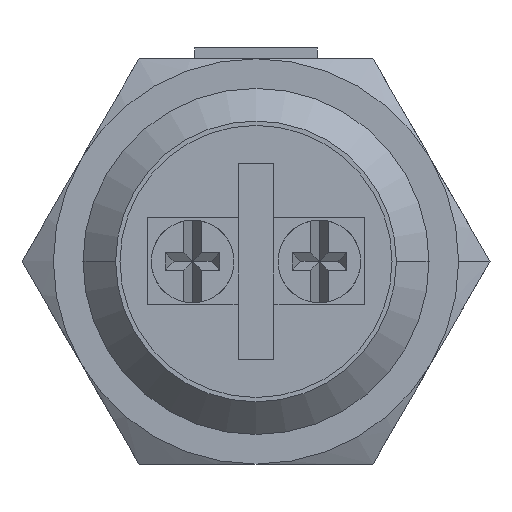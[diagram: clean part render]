
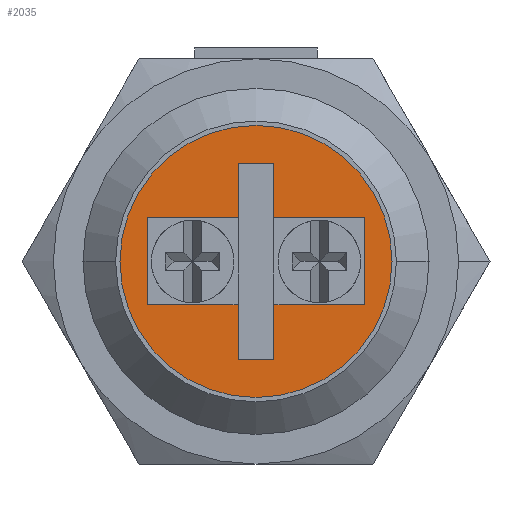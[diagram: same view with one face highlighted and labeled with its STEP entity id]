
A CAD part, front view. The second image highlights one B-rep face of the part: STEP entity #2035.
In plain terms, the highlighted planar face has unit normal (0, -1, 0).
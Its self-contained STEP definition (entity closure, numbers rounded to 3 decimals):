
#145 = CARTESIAN_POINT ( 'NONE',  ( 0.825, 0., -4.5 ) ) ;
#146 = CARTESIAN_POINT ( 'NONE',  ( -0.825, 0., -4.5 ) ) ;
#167 = CARTESIAN_POINT ( 'NONE',  ( 0.825, 0., 2. ) ) ;
#180 = CARTESIAN_POINT ( 'NONE',  ( -6.25, 0., 0. ) ) ;
#188 = CARTESIAN_POINT ( 'NONE',  ( 6.25, 0., 0. ) ) ;
#201 = CARTESIAN_POINT ( 'NONE',  ( -5., 0., -2. ) ) ;
#202 = CARTESIAN_POINT ( 'NONE',  ( -5., 0., 2. ) ) ;
#203 = CARTESIAN_POINT ( 'NONE',  ( -0.825, 0., 2. ) ) ;
#204 = CARTESIAN_POINT ( 'NONE',  ( -0.825, 0., -2. ) ) ;
#227 = CARTESIAN_POINT ( 'NONE',  ( 5., 0., -2. ) ) ;
#229 = CARTESIAN_POINT ( 'NONE',  ( 0.825, 0., 4.5 ) ) ;
#240 = CARTESIAN_POINT ( 'NONE',  ( 5., 0., 2. ) ) ;
#241 = CARTESIAN_POINT ( 'NONE',  ( -0.825, 0., 4.5 ) ) ;
#245 = CARTESIAN_POINT ( 'NONE',  ( 0.825, 0., -2. ) ) ;
#409 = CARTESIAN_POINT ( 'NONE',  ( 0., 0., 0. ) ) ;
#410 = DIRECTION ( 'NONE',  ( 0., 1., 0. ) ) ;
#411 = DIRECTION ( 'NONE',  ( -1., 0., 0. ) ) ;
#467 = LINE ( 'NONE', #468, #4491 ) ;
#468 = CARTESIAN_POINT ( 'NONE',  ( 5., 0., -2. ) ) ;
#469 = DIRECTION ( 'NONE',  ( 0., 0., 1. ) ) ;
#473 = LINE ( 'NONE', #474, #4490 ) ;
#474 = CARTESIAN_POINT ( 'NONE',  ( -0.825, 0., -4.5 ) ) ;
#475 = DIRECTION ( 'NONE',  ( 0., 0., -1. ) ) ;
#609 = LINE ( 'NONE', #610, #4444 ) ;
#610 = CARTESIAN_POINT ( 'NONE',  ( -5., 0., 2. ) ) ;
#611 = DIRECTION ( 'NONE',  ( -1., 0., 0. ) ) ;
#627 = LINE ( 'NONE', #628, #4435 ) ;
#628 = CARTESIAN_POINT ( 'NONE',  ( -5., 0., -2. ) ) ;
#629 = DIRECTION ( 'NONE',  ( 1., 0., 0. ) ) ;
#656 = CARTESIAN_POINT ( 'NONE',  ( 0., 0., 0. ) ) ;
#657 = LINE ( 'NONE', #658, #4420 ) ;
#658 = CARTESIAN_POINT ( 'NONE',  ( -0.825, 0., -4.5 ) ) ;
#659 = DIRECTION ( 'NONE',  ( 1., 0., 0. ) ) ;
#660 = LINE ( 'NONE', #661, #4417 ) ;
#661 = CARTESIAN_POINT ( 'NONE',  ( 0.825, 0., -4.5 ) ) ;
#662 = DIRECTION ( 'NONE',  ( 0., 0., 1. ) ) ;
#666 = DIRECTION ( 'NONE',  ( 0., 1., 0. ) ) ;
#667 = DIRECTION ( 'NONE',  ( -1., 0., 0. ) ) ;
#693 = LINE ( 'NONE', #694, #4398 ) ;
#694 = CARTESIAN_POINT ( 'NONE',  ( 0.825, 0., -4.5 ) ) ;
#695 = DIRECTION ( 'NONE',  ( 0., 0., 1. ) ) ;
#699 = LINE ( 'NONE', #700, #4394 ) ;
#700 = CARTESIAN_POINT ( 'NONE',  ( -0.825, 0., 4.5 ) ) ;
#701 = DIRECTION ( 'NONE',  ( -1., 0., 0. ) ) ;
#702 = LINE ( 'NONE', #703, #4392 ) ;
#703 = CARTESIAN_POINT ( 'NONE',  ( -0.825, 0., -4.5 ) ) ;
#704 = DIRECTION ( 'NONE',  ( 0., 0., -1. ) ) ;
#705 = LINE ( 'NONE', #706, #4391 ) ;
#706 = CARTESIAN_POINT ( 'NONE',  ( -5., 0., 2. ) ) ;
#707 = DIRECTION ( 'NONE',  ( -1., 0., 0. ) ) ;
#708 = LINE ( 'NONE', #709, #4389 ) ;
#709 = CARTESIAN_POINT ( 'NONE',  ( -5., 0., -2. ) ) ;
#710 = DIRECTION ( 'NONE',  ( 1., 0., 0. ) ) ;
#711 = LINE ( 'NONE', #712, #4386 ) ;
#712 = CARTESIAN_POINT ( 'NONE',  ( -5., 0., -2. ) ) ;
#713 = DIRECTION ( 'NONE',  ( 0., 0., -1. ) ) ;
#1630 = CIRCLE ( 'NONE', #4416, 6.25 ) ;
#1663 = CIRCLE ( 'NONE', #4525, 6.25 ) ;
#2035 = ADVANCED_FACE ( 'NONE', ( #4636, #4632 ), #4073, .T. ) ;
#2090 = EDGE_CURVE ( 'NONE', #5770, #5778, #1663, .T. ) ;
#2172 = EDGE_CURVE ( 'NONE', #5817, #5830, #467, .T. ) ;
#2174 = EDGE_CURVE ( 'NONE', #5794, #5736, #473, .T. ) ;
#2213 = EDGE_CURVE ( 'NONE', #5830, #5757, #609, .T. ) ;
#2219 = EDGE_CURVE ( 'NONE', #5835, #5817, #627, .T. ) ;
#2229 = EDGE_CURVE ( 'NONE', #5736, #5735, #657, .T. ) ;
#2230 = EDGE_CURVE ( 'NONE', #5735, #5835, #660, .T. ) ;
#2232 = EDGE_CURVE ( 'NONE', #5778, #5770, #1630, .T. ) ;
#2241 = EDGE_CURVE ( 'NONE', #5757, #5819, #693, .T. ) ;
#2243 = EDGE_CURVE ( 'NONE', #5819, #5831, #699, .T. ) ;
#2244 = EDGE_CURVE ( 'NONE', #5831, #5793, #702, .T. ) ;
#2245 = EDGE_CURVE ( 'NONE', #5793, #5792, #705, .T. ) ;
#2246 = EDGE_CURVE ( 'NONE', #5791, #5794, #708, .T. ) ;
#2247 = EDGE_CURVE ( 'NONE', #5792, #5791, #711, .T. ) ;
#4073 = PLANE ( 'NONE',  #4629 ) ;
#4074 = CARTESIAN_POINT ( 'NONE',  ( 0., 0., 0. ) ) ;
#4075 = DIRECTION ( 'NONE',  ( 0., -1., 0. ) ) ;
#4076 = DIRECTION ( 'NONE',  ( 1., 0., 0. ) ) ;
#4386 = VECTOR ( 'NONE', #713, 1000. ) ;
#4389 = VECTOR ( 'NONE', #710, 1000. ) ;
#4391 = VECTOR ( 'NONE', #707, 1000. ) ;
#4392 = VECTOR ( 'NONE', #704, 1000. ) ;
#4394 = VECTOR ( 'NONE', #701, 1000. ) ;
#4398 = VECTOR ( 'NONE', #695, 1000. ) ;
#4416 = AXIS2_PLACEMENT_3D ( 'NONE', #656, #666, #667 ) ;
#4417 = VECTOR ( 'NONE', #662, 1000. ) ;
#4420 = VECTOR ( 'NONE', #659, 1000. ) ;
#4435 = VECTOR ( 'NONE', #629, 1000. ) ;
#4444 = VECTOR ( 'NONE', #611, 1000. ) ;
#4490 = VECTOR ( 'NONE', #475, 1000. ) ;
#4491 = VECTOR ( 'NONE', #469, 1000. ) ;
#4525 = AXIS2_PLACEMENT_3D ( 'NONE', #409, #410, #411 ) ;
#4629 = AXIS2_PLACEMENT_3D ( 'NONE', #4074, #4075, #4076 ) ;
#4632 = FACE_BOUND ( 'NONE', #5301, .T. ) ;
#4636 = FACE_OUTER_BOUND ( 'NONE', #5295, .T. ) ;
#5295 = EDGE_LOOP ( 'NONE', ( #6091, #6173 ) ) ;
#5301 = EDGE_LOOP ( 'NONE', ( #6084, #6020, #6090, #6100, #6099, #6102, #6101, #6103, #6097, #6083, #6085, #6086 ) ) ;
#5735 = VERTEX_POINT ( 'NONE', #145 ) ;
#5736 = VERTEX_POINT ( 'NONE', #146 ) ;
#5757 = VERTEX_POINT ( 'NONE', #167 ) ;
#5770 = VERTEX_POINT ( 'NONE', #180 ) ;
#5778 = VERTEX_POINT ( 'NONE', #188 ) ;
#5791 = VERTEX_POINT ( 'NONE', #201 ) ;
#5792 = VERTEX_POINT ( 'NONE', #202 ) ;
#5793 = VERTEX_POINT ( 'NONE', #203 ) ;
#5794 = VERTEX_POINT ( 'NONE', #204 ) ;
#5817 = VERTEX_POINT ( 'NONE', #227 ) ;
#5819 = VERTEX_POINT ( 'NONE', #229 ) ;
#5830 = VERTEX_POINT ( 'NONE', #240 ) ;
#5831 = VERTEX_POINT ( 'NONE', #241 ) ;
#5835 = VERTEX_POINT ( 'NONE', #245 ) ;
#6020 = ORIENTED_EDGE ( 'NONE', *, *, #2213, .F. ) ;
#6083 = ORIENTED_EDGE ( 'NONE', *, *, #2245, .F. ) ;
#6084 = ORIENTED_EDGE ( 'NONE', *, *, #2241, .F. ) ;
#6085 = ORIENTED_EDGE ( 'NONE', *, *, #2244, .F. ) ;
#6086 = ORIENTED_EDGE ( 'NONE', *, *, #2243, .F. ) ;
#6090 = ORIENTED_EDGE ( 'NONE', *, *, #2172, .F. ) ;
#6091 = ORIENTED_EDGE ( 'NONE', *, *, #2090, .F. ) ;
#6097 = ORIENTED_EDGE ( 'NONE', *, *, #2247, .F. ) ;
#6099 = ORIENTED_EDGE ( 'NONE', *, *, #2230, .F. ) ;
#6100 = ORIENTED_EDGE ( 'NONE', *, *, #2219, .F. ) ;
#6101 = ORIENTED_EDGE ( 'NONE', *, *, #2174, .F. ) ;
#6102 = ORIENTED_EDGE ( 'NONE', *, *, #2229, .F. ) ;
#6103 = ORIENTED_EDGE ( 'NONE', *, *, #2246, .F. ) ;
#6173 = ORIENTED_EDGE ( 'NONE', *, *, #2232, .F. ) ;
